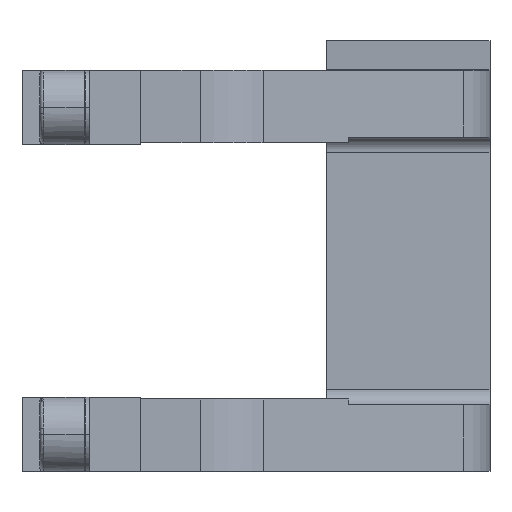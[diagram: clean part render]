
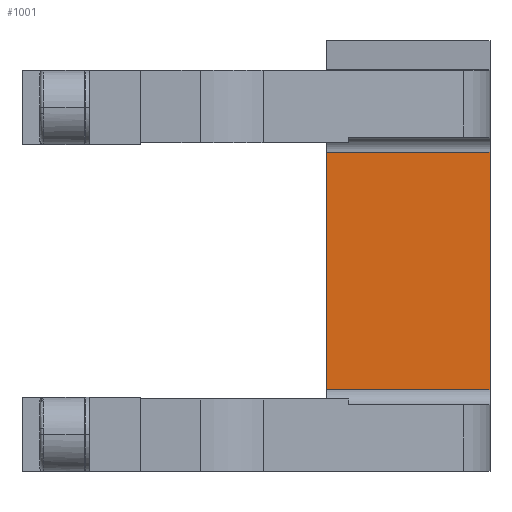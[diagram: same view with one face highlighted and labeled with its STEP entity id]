
A CAD part, front view. The second image highlights one B-rep face of the part: STEP entity #1001.
In plain terms, the highlighted planar face has unit normal (0, -1, 0).
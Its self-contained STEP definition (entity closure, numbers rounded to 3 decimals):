
#97=CARTESIAN_POINT('Line Origine',(47.,70.,0.)) ;
#101=CARTESIAN_POINT('Vertex',(47.,70.,16.)) ;
#103=CARTESIAN_POINT('Vertex',(47.,70.,-16.)) ;
#416=CARTESIAN_POINT('Vertex',(25.,70.,-16.)) ;
#419=CARTESIAN_POINT('Line Origine',(25.,70.,0.)) ;
#423=CARTESIAN_POINT('Vertex',(25.,70.,16.)) ;
#545=CARTESIAN_POINT('Line Origine',(33.391,70.,16.)) ;
#978=CARTESIAN_POINT('Line Origine',(33.391,70.,-16.)) ;
#990=CARTESIAN_POINT('Axis2P3D Location',(0.,70.,18.)) ;
#98=DIRECTION('Vector Direction',(0.,0.,-1.)) ;
#420=DIRECTION('Vector Direction',(0.,0.,-1.)) ;
#546=DIRECTION('Vector Direction',(1.,0.,0.)) ;
#979=DIRECTION('Vector Direction',(1.,0.,0.)) ;
#991=DIRECTION('Axis2P3D Direction',(0.,-1.,0.)) ;
#992=DIRECTION('Axis2P3D XDirection',(0.,0.,-1.)) ;
#993=AXIS2_PLACEMENT_3D('Plane Axis2P3D',#990,#991,#992) ;
#996=ORIENTED_EDGE('',*,*,#425,.T.) ;
#997=ORIENTED_EDGE('',*,*,#982,.F.) ;
#998=ORIENTED_EDGE('',*,*,#105,.F.) ;
#999=ORIENTED_EDGE('',*,*,#549,.T.) ;
#99=VECTOR('Line Direction',#98,1.) ;
#421=VECTOR('Line Direction',#420,1.) ;
#547=VECTOR('Line Direction',#546,1.) ;
#980=VECTOR('Line Direction',#979,1.) ;
#1001=ADVANCED_FACE('Brep With Voids',(#1000),#994,.T.) ;
#105=EDGE_CURVE('',#102,#104,#100,.T.) ;
#425=EDGE_CURVE('',#424,#417,#422,.T.) ;
#549=EDGE_CURVE('',#102,#424,#548,.F.) ;
#982=EDGE_CURVE('',#104,#417,#981,.F.) ;
#995=EDGE_LOOP('',(#996,#997,#998,#999)) ;
#1000=FACE_OUTER_BOUND('',#995,.T.) ;
#100=LINE('Line',#97,#99) ;
#422=LINE('Line',#419,#421) ;
#548=LINE('Line',#545,#547) ;
#981=LINE('Line',#978,#980) ;
#994=PLANE('Plane',#993) ;
#102=VERTEX_POINT('',#101) ;
#104=VERTEX_POINT('',#103) ;
#417=VERTEX_POINT('',#416) ;
#424=VERTEX_POINT('',#423) ;
